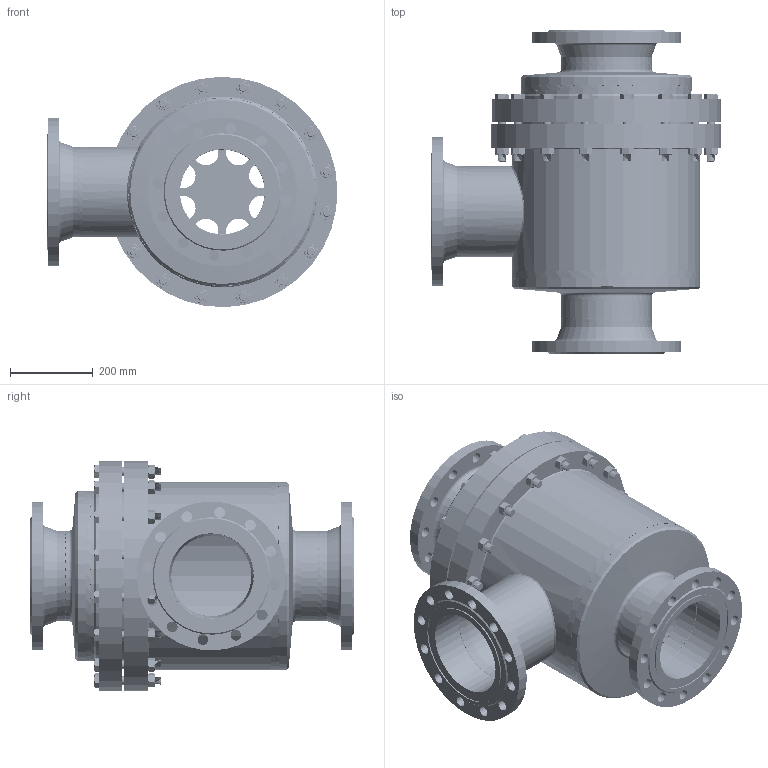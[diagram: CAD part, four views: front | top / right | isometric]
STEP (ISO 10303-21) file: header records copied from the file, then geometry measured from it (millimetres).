
FILE_DESCRIPTION (( 'STEP AP214' ), '1' );
FILE_NAME ('TR47020B23-DN200_DIN_PS25.STEP', '2005-08-19T11:50:05', ( 'Herr Grams' ), ( 'AWP GmbH' ), 'SwSTEP 2.0', 'SolidWorks 2002296', '' );
FILE_SCHEMA (( 'AUTOMOTIVE_DESIGN' ));
Length unit declared in the file: millimetre
Products named in the file (26): TR47020B23-DN200_DIN_PS25; Flansch-DIN2634-Nut_PS25_DIN-Flansch-DN200_PS25-Nut; TR47000B23-DN200_R1_PS25_Standard; Deck-kpl47020B23-DN200_PS25_R1_Standard; Boden-f-Deck47000B23_DN200_PS25_R1_DN200; Deckel47000B23_DN200_PS25_R1_Standard; bead-deck470-200_Standard; loser Flansch47000B23_DN200_PS25_Standard; Geh-kpl47000B23-DN200_PS25_R1_Standard; Kehlnaht23-3_Standard; Kehlnaht23-2_Standard; bead23-5_Standard; bead23-4_Standard; RohrstutzE00000-DN125-200_PS25_R1_DN 200; bead23-1_Standard; Kopfring47000B23_DN200_PS25_Standard; Boden47000B23_DN200_PS25_R1_DN200; Geh47000B23_DN200_PS25_R1_Standard; RohrstutzA47000B23-DN200_PS25_R1_Standard; Führungsring47000B23-DN200_Standard; Andruckplatte47000B23-DN200_Standard; Sechskantschraube-DIN933-M20x150_M20x150; Sechskantmutter-DIN934_M20; TR200-1_Standard; TR200-3_Standard; TR200-2_Standard
Assembly tree (57 placements, depth 4):
  TR47020B23-DN200_DIN_PS25
    Flansch-DIN2634-Nut_PS25_DIN-Flansch-DN200_PS25-Nut  x3
    TR200-3_Standard
    TR47000B23-DN200_R1_PS25_Standard
      Sechskantschraube-DIN933-M20x150_M20x150  x16
      Sechskantmutter-DIN934_M20  x16
      Andruckplatte47000B23-DN200_Standard
      Führungsring47000B23-DN200_Standard
      Deck-kpl47020B23-DN200_PS25_R1_Standard
        Boden-f-Deck47000B23_DN200_PS25_R1_DN200
        Deckel47000B23_DN200_PS25_R1_Standard
        bead-deck470-200_Standard
      loser Flansch47000B23_DN200_PS25_Standard
      Geh-kpl47000B23-DN200_PS25_R1_Standard
        Geh47000B23_DN200_PS25_R1_Standard
        bead23-5_Standard
        Kehlnaht23-3_Standard
        Kehlnaht23-2_Standard
        RohrstutzE00000-DN125-200_PS25_R1_DN 200
        RohrstutzA47000B23-DN200_PS25_R1_Standard
        bead23-1_Standard
        bead23-4_Standard
        Boden47000B23_DN200_PS25_R1_DN200
        Kopfring47000B23_DN200_PS25_Standard
    TR200-1_Standard
    TR200-2_Standard
Bounding box: 703.43 x 781.5 x 556.87 mm (x, y, z)
Volume: 38466624.5 mm3; surface area: 5041486.4 mm2
Topology: 54 solids, 54 shells, 1957 faces, 4966 edges, 3136 vertices
Faces by surface type: cylinder 964, cone 550, plane 369, bspline 60, torus 14
Entity records: 46254 total; most frequent: CARTESIAN_POINT 31564, DIRECTION 2975, ORIENTED_EDGE 2712, EDGE_CURVE 1356, AXIS2_PLACEMENT_3D 1279, VERTEX_POINT 864, EDGE_LOOP 768, CIRCLE 690
